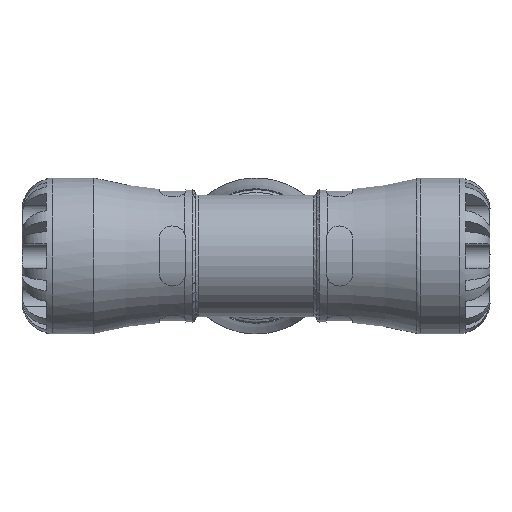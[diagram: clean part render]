
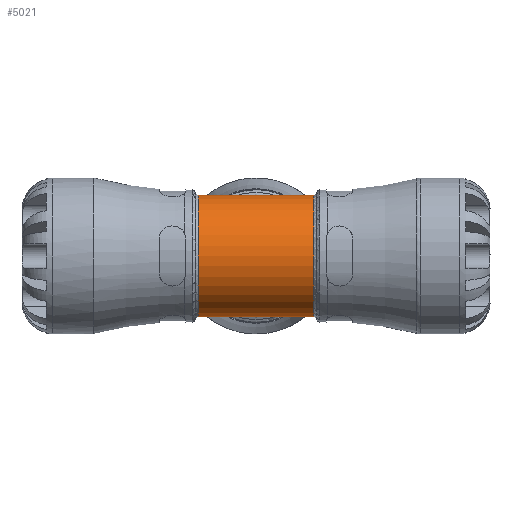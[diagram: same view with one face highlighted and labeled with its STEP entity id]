
A CAD part, front view. The second image highlights one B-rep face of the part: STEP entity #5021.
In plain terms, the highlighted cylindrical face has radius 15.99 mm (diameter 31.98 mm), a partial arc.
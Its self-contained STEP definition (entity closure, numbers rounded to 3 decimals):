
#921=CYLINDRICAL_SURFACE('',#5476,15.99);
#1416=FACE_OUTER_BOUND('',#1728,.T.);
#1728=EDGE_LOOP('',(#4205,#4206,#4207,#4208,#4209,#4210));
#1865=ELLIPSE('',#5145,22.905,15.99);
#1868=ELLIPSE('',#5150,22.905,15.99);
#1870=ELLIPSE('',#5154,22.905,15.99);
#1871=ELLIPSE('',#5156,22.905,15.99);
#1887=CIRCLE('',#5167,15.99);
#1972=CIRCLE('',#5350,15.99);
#2139=VERTEX_POINT('',#7095);
#2140=VERTEX_POINT('',#7097);
#2143=VERTEX_POINT('',#7205);
#2147=VERTEX_POINT('',#7360);
#2149=VERTEX_POINT('',#7363);
#2151=VERTEX_POINT('',#7397);
#2614=EDGE_CURVE('',#2139,#2140,#1865,.T.);
#2621=EDGE_CURVE('',#2140,#2143,#1868,.T.);
#2627=EDGE_CURVE('',#2149,#2147,#1870,.T.);
#2629=EDGE_CURVE('',#2151,#2149,#1871,.T.);
#2645=EDGE_CURVE('',#2147,#2139,#1887,.T.);
#2884=EDGE_CURVE('',#2143,#2151,#1972,.T.);
#4205=ORIENTED_EDGE('',*,*,#2614,.F.);
#4206=ORIENTED_EDGE('',*,*,#2645,.F.);
#4207=ORIENTED_EDGE('',*,*,#2627,.F.);
#4208=ORIENTED_EDGE('',*,*,#2629,.F.);
#4209=ORIENTED_EDGE('',*,*,#2884,.F.);
#4210=ORIENTED_EDGE('',*,*,#2621,.F.);
#5021=ADVANCED_FACE('',(#1416),#921,.T.);
#5145=AXIS2_PLACEMENT_3D('',#7098,#5707,#5708);
#5150=AXIS2_PLACEMENT_3D('',#7209,#5717,#5718);
#5154=AXIS2_PLACEMENT_3D('',#7365,#5725,#5726);
#5156=AXIS2_PLACEMENT_3D('',#7399,#5729,#5730);
#5167=AXIS2_PLACEMENT_3D('',#7749,#5751,#5752);
#5350=AXIS2_PLACEMENT_3D('',#9174,#6197,#6198);
#5476=AXIS2_PLACEMENT_3D('',#10155,#6513,#6514);
#5707=DIRECTION('center_axis',(-0.698,0.716,0.));
#5708=DIRECTION('ref_axis',(0.716,0.698,0.));
#5717=DIRECTION('center_axis',(0.698,0.716,0.));
#5718=DIRECTION('ref_axis',(-0.716,0.698,0.));
#5725=DIRECTION('center_axis',(-0.698,0.716,0.));
#5726=DIRECTION('ref_axis',(0.716,0.698,0.));
#5729=DIRECTION('center_axis',(0.698,0.716,0.));
#5730=DIRECTION('ref_axis',(-0.716,0.698,0.));
#5751=DIRECTION('center_axis',(1.,0.,0.));
#5752=DIRECTION('ref_axis',(0.,1.,0.));
#6197=DIRECTION('center_axis',(-1.,0.,0.));
#6198=DIRECTION('ref_axis',(0.,1.,0.));
#6513=DIRECTION('center_axis',(1.,0.,0.));
#6514=DIRECTION('ref_axis',(0.,1.,0.));
#7095=CARTESIAN_POINT('',(15.183,14.803,-6.045));
#7097=CARTESIAN_POINT('',(0.,0.,-15.99));
#7098=CARTESIAN_POINT('Origin',(0.,0.,0.));
#7205=CARTESIAN_POINT('',(-15.183,14.803,-6.045));
#7209=CARTESIAN_POINT('Origin',(0.,0.,0.));
#7360=CARTESIAN_POINT('',(15.183,14.803,6.045));
#7363=CARTESIAN_POINT('',(0.,0.,15.99));
#7365=CARTESIAN_POINT('Origin',(0.,0.,0.));
#7397=CARTESIAN_POINT('',(-15.183,14.803,6.045));
#7399=CARTESIAN_POINT('Origin',(0.,0.,0.));
#7749=CARTESIAN_POINT('Origin',(15.183,0.,0.));
#9174=CARTESIAN_POINT('Origin',(-15.183,0.,0.));
#10155=CARTESIAN_POINT('Origin',(7.995,0.,0.));
